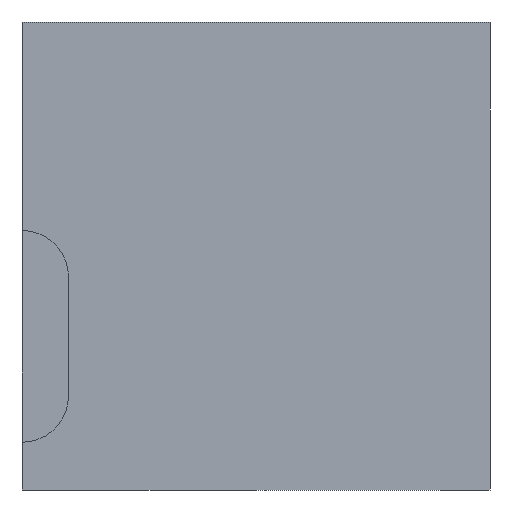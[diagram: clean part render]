
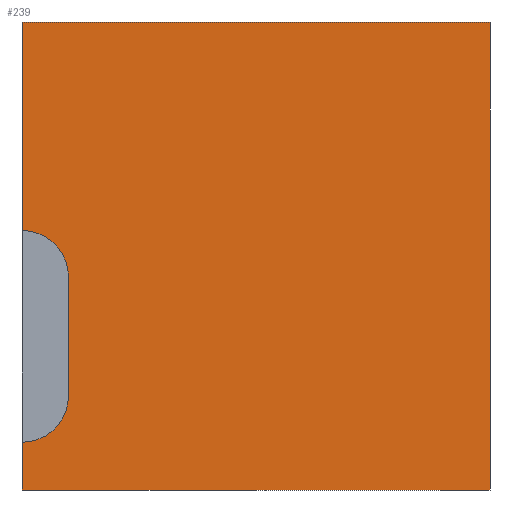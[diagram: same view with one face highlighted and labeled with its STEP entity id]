
A CAD part, left-side view. The second image highlights one B-rep face of the part: STEP entity #239.
In plain terms, the highlighted planar face has unit normal (-1, 0, 0).
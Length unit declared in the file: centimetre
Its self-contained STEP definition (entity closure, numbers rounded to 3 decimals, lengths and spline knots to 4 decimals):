
#2 = VECTOR ( 'NONE', #64, 100. ) ;
#12 = ORIENTED_EDGE ( 'NONE', *, *, #760, .F. ) ;
#14 = DIRECTION ( 'NONE',  ( 0., 0., 1. ) ) ;
#15 = FACE_OUTER_BOUND ( 'NONE', #362, .T. ) ;
#20 = CARTESIAN_POINT ( 'NONE',  ( 0., 1000., 201.4714 ) ) ;
#21 = DIRECTION ( 'NONE',  ( 0., 0., -1. ) ) ;
#24 = VECTOR ( 'NONE', #130, 100. ) ;
#35 = CIRCLE ( 'NONE', #132, 99.4202 ) ;
#36 = ORIENTED_EDGE ( 'NONE', *, *, #710, .F. ) ;
#40 = EDGE_CURVE ( 'NONE', #214, #533, #602, .T. ) ;
#49 = ORIENTED_EDGE ( 'NONE', *, *, #600, .T. ) ;
#54 = DIRECTION ( 'NONE',  ( 0., 0., 1. ) ) ;
#55 = EDGE_CURVE ( 'NONE', #353, #349, #160, .T. ) ;
#64 = DIRECTION ( 'NONE',  ( 0., 0., -1. ) ) ;
#74 = ORIENTED_EDGE ( 'NONE', *, *, #621, .F. ) ;
#77 = DIRECTION ( 'NONE',  ( 0., 0., 1. ) ) ;
#85 = AXIS2_PLACEMENT_3D ( 'NONE', #391, #530, #632 ) ;
#99 = VERTEX_POINT ( 'NONE', #351 ) ;
#125 = CARTESIAN_POINT ( 'NONE',  ( 0., 1000., 102.0512 ) ) ;
#130 = DIRECTION ( 'NONE',  ( 0., -1., 0. ) ) ;
#132 = AXIS2_PLACEMENT_3D ( 'NONE', #606, #350, #77 ) ;
#136 = EDGE_CURVE ( 'NONE', #214, #438, #766, .T. ) ;
#140 = AXIS2_PLACEMENT_3D ( 'NONE', #20, #337, #14 ) ;
#155 = EDGE_CURVE ( 'NONE', #533, #748, #815, .T. ) ;
#160 = LINE ( 'NONE', #730, #357 ) ;
#196 = CARTESIAN_POINT ( 'NONE',  ( 0., 1000., 0. ) ) ;
#205 = CARTESIAN_POINT ( 'NONE',  ( 0., 1000., 1000. ) ) ;
#214 = VERTEX_POINT ( 'NONE', #205 ) ;
#234 = VECTOR ( 'NONE', #54, 100. ) ;
#239 = ADVANCED_FACE ( 'NONE', ( #15 ), #271, .F. ) ;
#268 = ORIENTED_EDGE ( 'NONE', *, *, #40, .F. ) ;
#271 = PLANE ( 'NONE',  #85 ) ;
#277 = CARTESIAN_POINT ( 'NONE',  ( 0., 1000., 1000. ) ) ;
#337 = DIRECTION ( 'NONE',  ( -1., 0., 0. ) ) ;
#345 = DIRECTION ( 'NONE',  ( 0., -1., 0. ) ) ;
#347 = CIRCLE ( 'NONE', #140, 99.4202 ) ;
#349 = VERTEX_POINT ( 'NONE', #702 ) ;
#350 = DIRECTION ( 'NONE',  ( -1., 0., 0. ) ) ;
#351 = CARTESIAN_POINT ( 'NONE',  ( 0., 900.5798, 455.0352 ) ) ;
#353 = VERTEX_POINT ( 'NONE', #125 ) ;
#354 = CARTESIAN_POINT ( 'NONE',  ( 0., 0., 0. ) ) ;
#357 = VECTOR ( 'NONE', #21, 100. ) ;
#362 = EDGE_LOOP ( 'NONE', ( #74, #36, #771, #49, #671, #268, #782, #12 ) ) ;
#386 = DIRECTION ( 'NONE',  ( 0., 0., -1. ) ) ;
#389 = CARTESIAN_POINT ( 'NONE',  ( 0., 900.5798, 201.4714 ) ) ;
#391 = CARTESIAN_POINT ( 'NONE',  ( 0., 1000., 1000. ) ) ;
#395 = CARTESIAN_POINT ( 'NONE',  ( 0., 0., 1000. ) ) ;
#427 = VECTOR ( 'NONE', #386, 100. ) ;
#438 = VERTEX_POINT ( 'NONE', #698 ) ;
#461 = LINE ( 'NONE', #389, #234 ) ;
#530 = DIRECTION ( 'NONE',  ( 1., 0., 0. ) ) ;
#533 = VERTEX_POINT ( 'NONE', #395 ) ;
#534 = CARTESIAN_POINT ( 'NONE',  ( 0., 900.5798, 201.4714 ) ) ;
#556 = VECTOR ( 'NONE', #345, 100. ) ;
#600 = EDGE_CURVE ( 'NONE', #349, #748, #630, .T. ) ;
#602 = LINE ( 'NONE', #277, #556 ) ;
#606 = CARTESIAN_POINT ( 'NONE',  ( 0., 1000., 455.0352 ) ) ;
#621 = EDGE_CURVE ( 'NONE', #796, #99, #461, .T. ) ;
#630 = LINE ( 'NONE', #196, #24 ) ;
#632 = DIRECTION ( 'NONE',  ( 0., 0., -1. ) ) ;
#636 = CARTESIAN_POINT ( 'NONE',  ( 0., 1000., 1000. ) ) ;
#671 = ORIENTED_EDGE ( 'NONE', *, *, #155, .F. ) ;
#697 = CARTESIAN_POINT ( 'NONE',  ( 0., 0., 1000. ) ) ;
#698 = CARTESIAN_POINT ( 'NONE',  ( 0., 1000., 554.4554 ) ) ;
#702 = CARTESIAN_POINT ( 'NONE',  ( 0., 1000., 0. ) ) ;
#710 = EDGE_CURVE ( 'NONE', #353, #796, #347, .T. ) ;
#730 = CARTESIAN_POINT ( 'NONE',  ( 0., 1000., 1000. ) ) ;
#748 = VERTEX_POINT ( 'NONE', #354 ) ;
#760 = EDGE_CURVE ( 'NONE', #99, #438, #35, .T. ) ;
#766 = LINE ( 'NONE', #636, #2 ) ;
#771 = ORIENTED_EDGE ( 'NONE', *, *, #55, .T. ) ;
#782 = ORIENTED_EDGE ( 'NONE', *, *, #136, .T. ) ;
#796 = VERTEX_POINT ( 'NONE', #534 ) ;
#815 = LINE ( 'NONE', #697, #427 ) ;
